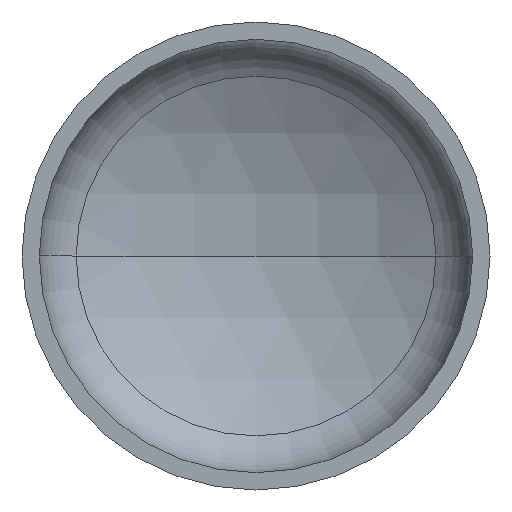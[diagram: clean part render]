
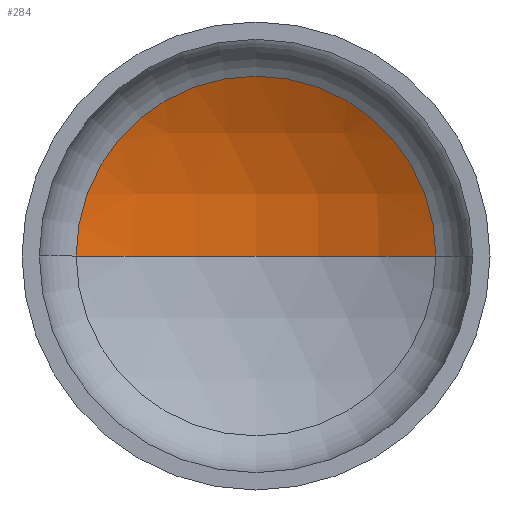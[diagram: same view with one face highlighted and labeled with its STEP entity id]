
A CAD part, front view. The second image highlights one B-rep face of the part: STEP entity #284.
In plain terms, the highlighted spherical face has radius 254 mm.
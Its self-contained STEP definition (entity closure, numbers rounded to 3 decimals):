
#10 = CIRCLE ( 'NONE', #75, 124.448 ) ;
#13 = EDGE_LOOP ( 'NONE', ( #120, #108, #38 ) ) ;
#28 = CARTESIAN_POINT ( 'NONE',  ( 0., -137.837, 0. ) ) ;
#38 = ORIENTED_EDGE ( 'NONE', *, *, #190, .T. ) ;
#39 = AXIS2_PLACEMENT_3D ( 'NONE', #28, #168, #142 ) ;
#63 = AXIS2_PLACEMENT_3D ( 'NONE', #279, #277, #275 ) ;
#70 = AXIS2_PLACEMENT_3D ( 'NONE', #215, #216, #257 ) ;
#75 = AXIS2_PLACEMENT_3D ( 'NONE', #314, #264, #401 ) ;
#97 = VERTEX_POINT ( 'NONE', #235 ) ;
#100 = FACE_OUTER_BOUND ( 'NONE', #13, .T. ) ;
#108 = ORIENTED_EDGE ( 'NONE', *, *, #194, .T. ) ;
#112 = VERTEX_POINT ( 'NONE', #183 ) ;
#117 = SPHERICAL_SURFACE ( 'NONE', #39, 254. ) ;
#120 = ORIENTED_EDGE ( 'NONE', *, *, #200, .F. ) ;
#136 = CIRCLE ( 'NONE', #63, 254. ) ;
#142 = DIRECTION ( 'NONE',  ( -1., 0., 0. ) ) ;
#168 = DIRECTION ( 'NONE',  ( 0., 0., -1. ) ) ;
#178 = VERTEX_POINT ( 'NONE', #300 ) ;
#183 = CARTESIAN_POINT ( 'NONE',  ( 0., 116.163, 0. ) ) ;
#190 = EDGE_CURVE ( 'NONE', #97, #178, #10, .T. ) ;
#194 = EDGE_CURVE ( 'NONE', #112, #97, #233, .T. ) ;
#200 = EDGE_CURVE ( 'NONE', #112, #178, #136, .T. ) ;
#215 = CARTESIAN_POINT ( 'NONE',  ( 0., -137.837, 0. ) ) ;
#216 = DIRECTION ( 'NONE',  ( 0., 0., -1. ) ) ;
#233 = CIRCLE ( 'NONE', #70, 254. ) ;
#235 = CARTESIAN_POINT ( 'NONE',  ( 124.448, 83.587, 0. ) ) ;
#257 = DIRECTION ( 'NONE',  ( -1., 0., 0. ) ) ;
#264 = DIRECTION ( 'NONE',  ( 0., -1., 0. ) ) ;
#275 = DIRECTION ( 'NONE',  ( 1., 0., 0. ) ) ;
#277 = DIRECTION ( 'NONE',  ( 0., 0., 1. ) ) ;
#279 = CARTESIAN_POINT ( 'NONE',  ( 0., -137.837, 0. ) ) ;
#284 = ADVANCED_FACE ( 'NONE', ( #100 ), #117, .F. ) ;
#300 = CARTESIAN_POINT ( 'NONE',  ( -124.448, 83.587, 0. ) ) ;
#314 = CARTESIAN_POINT ( 'NONE',  ( 0., 83.587, 0. ) ) ;
#401 = DIRECTION ( 'NONE',  ( 1., 0., 0. ) ) ;
